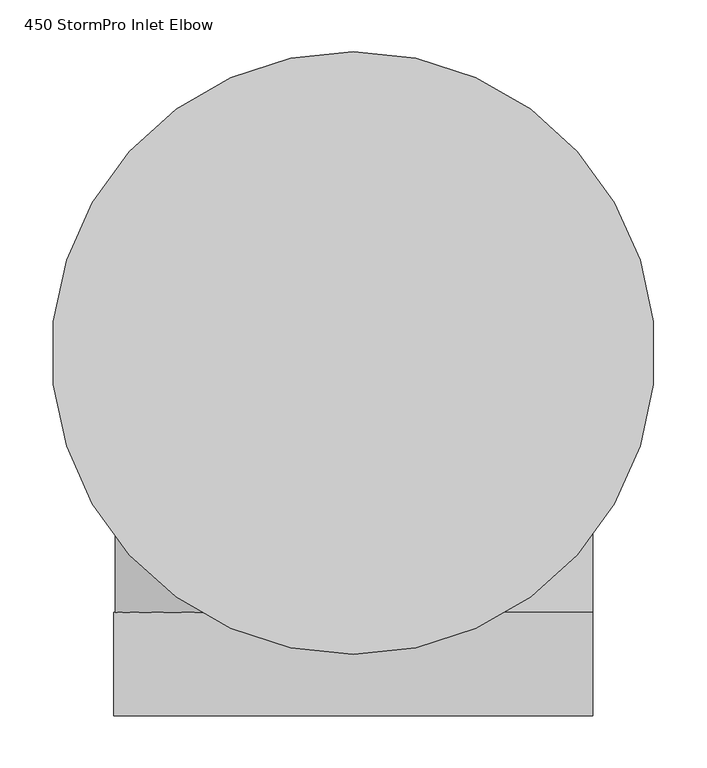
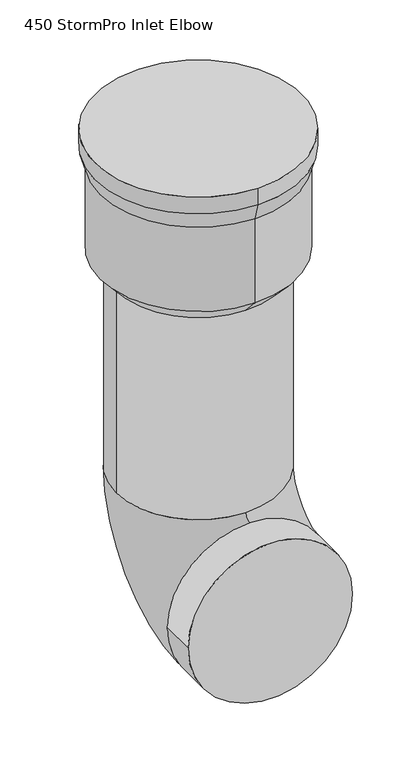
"""IFC4 building model written with IfcOpenShell, lengths in millimetres: proxy geometry, 450 StormPro Inlet Elbow."""

from ifc_helpers import new_model, si_unit, point, frame, origin, place, context, project, spatial, polyline, circle_curve, ellipse_curve, trimmed, source, transform, mapped, element, save
from ifc_brep_helpers import plane_surface, cylinder_surface, revolved_surface, advanced_brep


def proxy_450_stormpro_inlet_elbow_3b9101ad(model_context):
    return source(origin(), model_context, "Body", "AdvancedBrep", [
        advanced_brep(
        [(231.0, 0.0, 50.0), (231.0, 0.0, -550.0), (0.0, 231.0, -550.0), (-231.0, 0.0, -550.0), (-231.0, 0.0, 50.0), (0.0, 231.0, 50.0), (0.0, -250.0, -1031.0), (-231.0, -250.0, -800.0), (0.0, -250.0, -569.0), (0.0, -231.0, -550.0), (231.0, -250.0, -800.0), (231.0, -350.0, -800.0), (-231.0, -350.0, -800.0), (0.0, 276.0, 100.0), (0.0, -276.0, 100.0), (0.0, -231.0, 50.0), (0.0, 291.0, 400.0), (0.0, 291.0, 450.0), (0.0, -291.0, 450.0), (0.0, -291.0, 400.0), (0.0, 276.0, 350.0), (0.0, -276.0, 350.0)],
        [
            (0, 1),
            (1, 2, circle_curve(frame((0.0, 0.0, -550.0), z_axis=(0.0, 0.0, 1.0), x_axis=(1.0, 0.0, 0.0)), 231.0)),
            (2, 3, circle_curve(frame((0.0, 0.0, -550.0), z_axis=(0.0, 0.0, 1.0), x_axis=(1.0, 0.0, 0.0)), 231.0)),
            (3, 4),
            (4, 5, circle_curve(frame((0.0, 0.0, 50.0), z_axis=(0.0, 0.0, -1.0), x_axis=(1.0, 0.0, 0.0)), 231.0)),
            (5, 0, circle_curve(frame((0.0, 0.0, 50.0), z_axis=(0.0, 0.0, -1.0), x_axis=(1.0, 0.0, 0.0)), 231.0)),
            (2, 6, circle_curve(frame((0.0, -250.0, -550.0), z_axis=(-1.0, 0.0, 0.0), x_axis=(0.0, 1.0, 0.0)), 481.0)),
            (6, 7, circle_curve(frame((0.0, -250.0, -800.0), z_axis=(0.0, 1.0, 0.0), x_axis=(0.0, 0.0, -1.0)), 231.0)),
            (7, 8, circle_curve(frame((0.0, -250.0, -800.0), z_axis=(0.0, 1.0, 0.0), x_axis=(0.0, 0.0, -1.0)), 231.0)),
            (8, 9, circle_curve(frame((0.0, -250.0, -550.0), z_axis=(1.0, 0.0, 0.0), x_axis=(0.0, 1.0, 0.0)), 19.0)),
            (9, 3, circle_curve(frame((0.0, 0.0, -550.0), z_axis=(0.0, 0.0, -1.0), x_axis=(0.0, 1.0, 0.0)), 231.0)),
            (10, 11),
            (11, 12, circle_curve(frame((0.0, -350.0, -800.0), z_axis=(0.0, 1.0, 0.0), x_axis=(1.0, 0.0, 0.0)), 231.0)),
            (12, 7),
            (6, 10, circle_curve(frame((0.0, -250.0, -800.0), z_axis=(0.0, -1.0, 0.0), x_axis=(1.0, 0.0, 0.0)), 231.0)),
            (5, 13),
            (13, 14, circle_curve(frame((0.0, 0.0, 100.0), z_axis=(0.0, 0.0, -1.0), x_axis=(0.0, -1.0, 0.0)), 276.0)),
            (14, 15),
            (15, 0, circle_curve(frame((0.0, 0.0, 50.0), z_axis=(0.0, 0.0, 1.0), x_axis=(0.0, -1.0, 0.0)), 231.0)),
            (16, 17),
            (17, 18, circle_curve(frame((0.0, 0.0, 450.0), z_axis=(0.0, 0.0, -1.0), x_axis=(0.0, 1.0, 0.0)), 291.0)),
            (18, 19),
            (19, 16, circle_curve(frame((0.0, 0.0, 400.0), z_axis=(0.0, 0.0, 1.0), x_axis=(0.0, 1.0, 0.0)), 291.0)),
            (20, 16),
            (19, 21),
            (21, 20, circle_curve(frame((0.0, 0.0, 350.0), z_axis=(0.0, 0.0, 1.0), x_axis=(0.0, -1.0, 0.0)), 276.0)),
            (13, 20),
            (21, 14),
            (17, 18, circle_curve(frame((0.0, 0.0, 450.0), z_axis=(0.0, 0.0, 1.0), x_axis=(0.0, 1.0, 0.0)), 291.0)),
            (11, 12, circle_curve(frame((0.0, -350.0, -800.0), z_axis=(0.0, -1.0, 0.0), x_axis=(1.0, 0.0, 0.0)), 231.0)),
            (13, 14, circle_curve(frame((0.0, 0.0, 100.0), z_axis=(0.0, 0.0, 1.0), x_axis=(0.0, 1.0, 0.0)), 276.0)),
            (21, 20, circle_curve(frame((0.0, 0.0, 350.0), z_axis=(0.0, 0.0, -1.0), x_axis=(0.0, 1.0, 0.0)), 276.0)),
            (19, 16, circle_curve(frame((0.0, 0.0, 400.0), z_axis=(0.0, 0.0, -1.0), x_axis=(0.0, 1.0, 0.0)), 291.0)),
            (4, 15, circle_curve(frame((0.0, 0.0, 50.0), z_axis=(0.0, 0.0, 1.0), x_axis=(0.0, 1.0, 0.0)), 231.0)),
            (10, 8, circle_curve(frame((0.0, -250.0, -800.0), z_axis=(0.0, -1.0, 0.0), x_axis=(1.0, 0.0, 0.0)), 231.0)),
            (1, 9, circle_curve(frame((0.0, 0.0, -550.0), z_axis=(0.0, 0.0, -1.0), x_axis=(0.0, 1.0, 0.0)), 231.0)),
        ],
        [
            cylinder_surface(frame((0.0, 0.0, 0.0), z_axis=(0.0, 0.0, -1.0), x_axis=(1.0, 0.0, 0.0)), 231.0),
            revolved_surface(trimmed(ellipse_curve(frame((0.0, 0.0, -550.0), z_axis=(0.0, 0.0, 1.0), x_axis=(0.0, 1.0, 0.0)), 231.0, 231.0), [point((0.0, 231.0, -550.0))], [point((0.0, -231.0, -550.0))], True, "CARTESIAN"), (0.0, -250.0, -550.0), (-1.0, 0.0, 0.0)),
            cylinder_surface(frame((0.0, -250.0, -800.0), z_axis=(0.0, -1.0, 0.0), x_axis=(1.0, 0.0, 0.0)), 231.0),
            revolved_surface(polyline([(0.0, 231.0000000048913, 50.0), (0.0, 276.0, 100.0)]), (0.0, 0.0, -206.6666667), (0.0, 0.0, 1.0)),
            cylinder_surface(frame((0.0, 0.0, 425.0), z_axis=(0.0, 0.0, 1.0), x_axis=(0.0, 1.0, 0.0)), 291.0),
            revolved_surface(polyline([(0.0, 276.0, 350.0), (0.0, 291.0, 400.0)]), (0.0, 0.0, -570.0), (0.0, 0.0, 1.0)),
            cylinder_surface(frame((0.0, 0.0, 225.0), z_axis=(0.0, 0.0, 1.0), x_axis=(0.0, 1.0, 0.0)), 276.0),
            plane_surface(frame((0.0, 285.0, 450.0), z_axis=(0.0, 0.0, 1.0), x_axis=(1.0, 0.0, 0.0))),
            plane_surface(frame((0.0, -350.0, -800.0), z_axis=(0.0, -1.0, 0.0), x_axis=(1.0, 0.0, 0.0))),
            revolved_surface(trimmed(ellipse_curve(frame((0.0, 0.0, -550.0), z_axis=(0.0, 0.0, 1.0), x_axis=(0.0, 1.0, 0.0)), 231.0, 231.0), [point((0.0, -231.0, -550.0))], [point((0.0, 231.0, -550.0))], True, "CARTESIAN"), (0.0, -250.0, -550.0), (-1.0, 0.0, 0.0)),
        ],
        [
            (0, [[1, 2, 3, 4, 5, 6]]),
            (1, [[7, 8, 9, 10, 11, -3]]),
            (2, [[12, 13, 14, -8, 15]]),
            (3, [[16, 17, 18, 19, -6]]),
            (4, [[20, 21, 22, 23]]),
            (5, [[24, -23, 25, 26]]),
            (6, [[27, -26, 28, -17]]),
            (7, [[29, -21]]),
            (8, [[30, -13]]),
            (6, [[-27, 31, -28, 32]]),
            (5, [[-24, -32, -25, 33]]),
            (4, [[-20, -33, -22, -29]]),
            (3, [[-16, -5, 34, -18, -31]]),
            (2, [[-12, 35, -9, -14, -30]]),
            (9, [[-7, -2, 36, -10, -35, -15]]),
            (0, [[-1, -19, -34, -4, -11, -36]]),
        ],
    ),
    ])


if __name__ == "__main__":
    model = new_model("IFC4")
    model_context = context("Model", 3, world=origin())
    ifc_project = project(units=[si_unit("LENGTHUNIT", "METRE", prefix="MILLI")], contexts=[model_context])
    site = spatial("IfcSite", under=ifc_project)
    building = spatial("IfcBuilding", under=site)
    placement = place(None, origin())
    proxy_450_stormpro_inlet_elbow_shape = proxy_450_stormpro_inlet_elbow_3b9101ad(model_context)
    element("IfcBuildingElementProxy", 1, Name="450 StormPro Inlet Elbow", ObjectType="450 StormPro Inlet Elbow", at=placement, inside=building, context=model_context, shape_type="MappedRepresentation", body=[
        mapped(proxy_450_stormpro_inlet_elbow_shape, transform((0.0, 0.0, 0.0), x_axis=(1.0, 0.0, 0.0), y_axis=(0.0, 1.0, 0.0), z_axis=(0.0, 0.0, 1.0))),
    ])
    save(model, "model.ifc")
